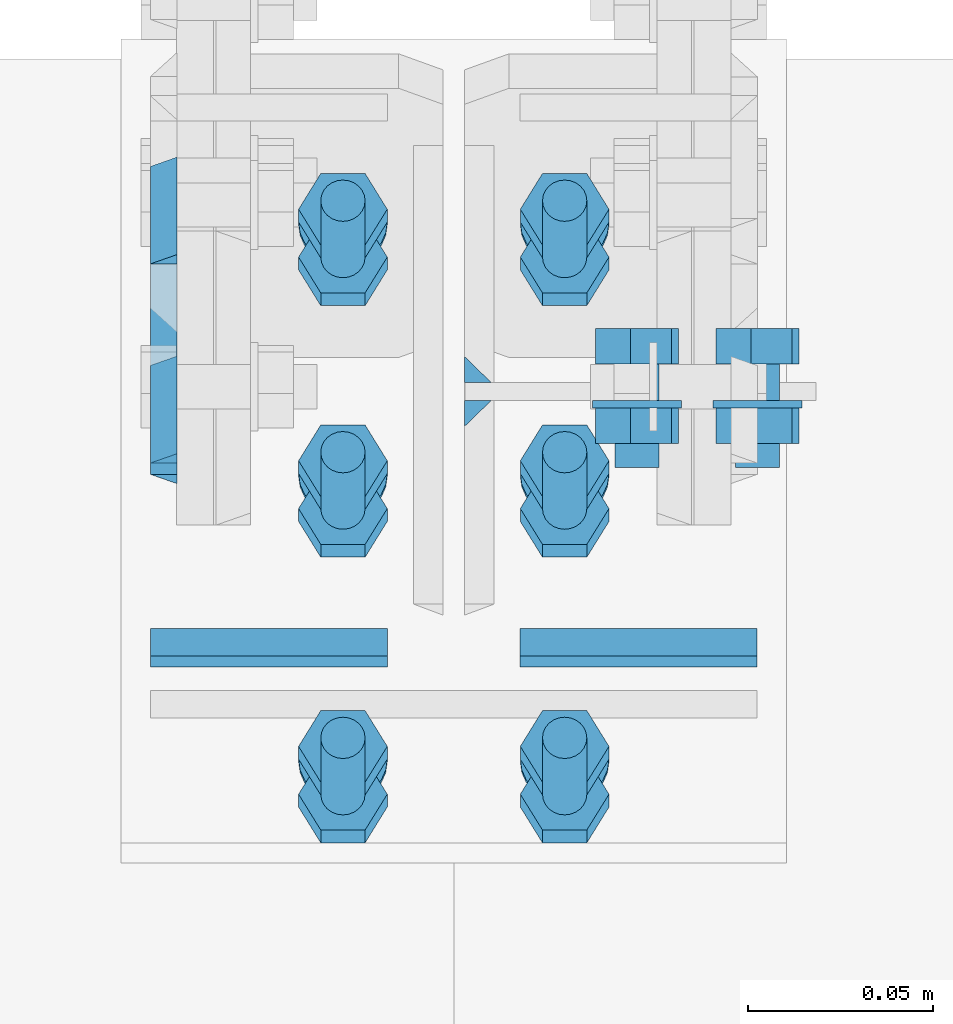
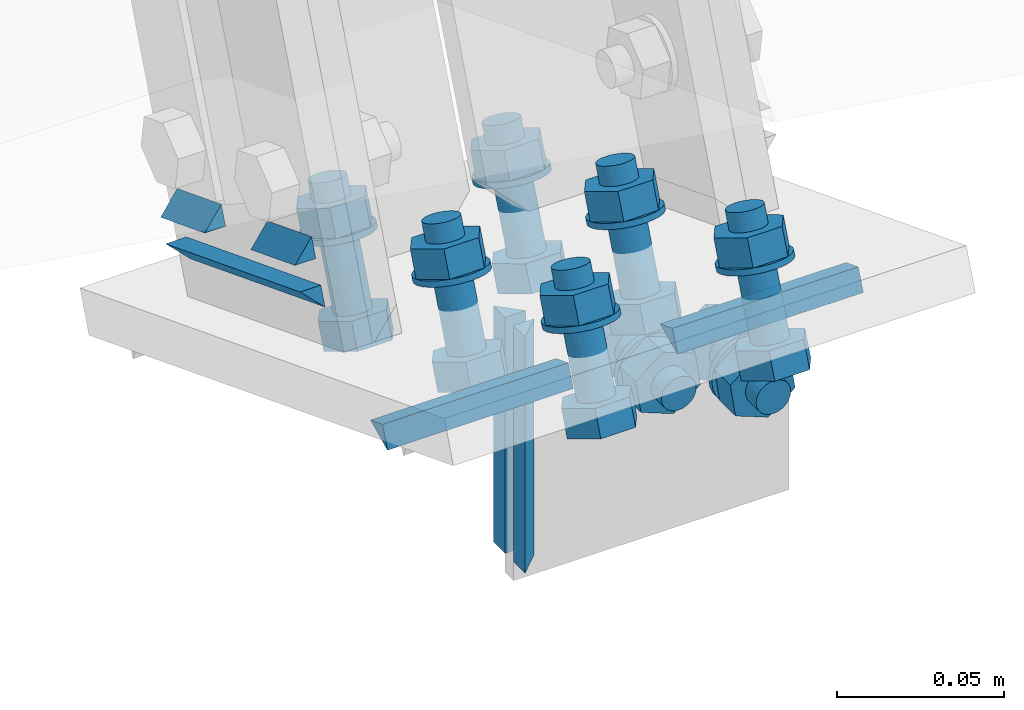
# One storey, part 64 of 72: 32 mechanical fasteners, 11 fasteners.
"""IFC4 building model written with IfcOpenShell, lengths in metres."""

from ifc_helpers import new_model, si_unit, frame, origin_with_axes, place, context, project, spatial, polyline, outline, extrude, type_object, element, save


model = new_model("IFC4")

# Units and contexts
model_context = context("Model", 3, precision=1e-05, world=origin_with_axes())
ifc_project = project(units=[si_unit("LENGTHUNIT", "METRE"), si_unit("AREAUNIT", "SQUARE_METRE"), si_unit("VOLUMEUNIT", "CUBIC_METRE"), si_unit("MASSUNIT", "GRAM", prefix="KILO"), si_unit("TIMEUNIT", "SECOND"), si_unit("PLANEANGLEUNIT", "RADIAN"), si_unit("SOLIDANGLEUNIT", "STERADIAN"), si_unit("THERMODYNAMICTEMPERATUREUNIT", "DEGREE_CELSIUS")], contexts=[model_context])

# Site, building, storey
placement_1 = place(None, origin_with_axes())
site = spatial("IfcSite", under=ifc_project, at=placement_1, Name="Italia", CompositionType="ELEMENT")
building = spatial("IfcBuilding", under=site, at=placement_1, Name="Uffici", CompositionType="ELEMENT")
storey = spatial("IfcBuildingStorey", under=building, at=placement_1, Name="Storey 0", CompositionType="ELEMENT", Elevation=0.0)

# Fasteners
fastener_type_1 = type_object("IfcFastenerType", Name="Collegamento 0209_0109", PredefinedType="WELD")
placement_2 = place(placement_1, origin_with_axes())
fastener_1_placement = place(placement_2, origin_with_axes())
element("IfcFastener", 1, at=fastener_1_placement, inside=storey, type_object=fastener_type_1, Name="Collegamento 0209_0109", context=model_context, shape_type="SweptSolid", body=[
    extrude(outline(polyline([(0.0, 0.0), (-0.0103469, -0.00475454), (-0.00739193, 0.00286627), (0.0, 0.0)])), frame((9.47295, 4.74586, 5.14777), z_axis=(1.0, 0.0, 0.0), x_axis=(0.0, 1.0, 0.0)), (0.0, 0.0, 1.0), 0.0641003),
])
fastener_type_2 = type_object("IfcFastenerType", Name="Collegamento 0209_0109", PredefinedType="WELD")
fastener_2_placement = place(placement_2, origin_with_axes())
element("IfcFastener", 2, at=fastener_2_placement, inside=storey, type_object=fastener_type_2, Name="Collegamento 0209_0109", context=model_context, shape_type="SweptSolid", body=[
    extrude(outline(polyline([(0.0, 0.0), (-0.0103469, -0.00475454), (-0.00739193, 0.00286627), (0.0, 0.0)])), frame((9.37295, 4.74586, 5.14777), z_axis=(1.0, 0.0, 0.0), x_axis=(0.0, 1.0, 0.0)), (0.0, 0.0, 1.0), 0.0641003),
])
fastener_type_3 = type_object("IfcFastenerType", Name="Collegamento 0209_0109", PredefinedType="WELD")
fastener_3_placement = place(placement_2, origin_with_axes())
element("IfcFastener", 3, at=fastener_3_placement, inside=storey, type_object=fastener_type_3, Name="Collegamento 0209_0109", context=model_context, shape_type="SweptSolid", body=[
    extrude(outline(polyline([(0.0, 0.0), (-0.0103469, -0.00475454), (-0.00739193, 0.00286627), (0.0, 0.0)])), frame((9.47295, 4.74586, 5.14777), z_axis=(1.0, 0.0, 0.0), x_axis=(0.0, 1.0, 0.0)), (0.0, 0.0, 1.0), 0.0641003),
])
fastener_type_4 = type_object("IfcFastenerType", Name="Collegamento 0209_0109", PredefinedType="WELD")
fastener_4_placement = place(placement_2, origin_with_axes())
element("IfcFastener", 4, at=fastener_4_placement, inside=storey, type_object=fastener_type_4, Name="Collegamento 0209_0109", context=model_context, shape_type="SweptSolid", body=[
    extrude(outline(polyline([(0.0, 0.0), (-0.0103469, -0.00475454), (-0.00739193, 0.00286627), (0.0, 0.0)])), frame((9.37295, 4.74586, 5.14777), z_axis=(1.0, 0.0, 0.0), x_axis=(0.0, 1.0, 0.0)), (0.0, 0.0, 1.0), 0.0641003),
])

# Mechanical fasteners
mechanical_fastener_type_1 = type_object("IfcMechanicalFastenerType", Name="Collegamento 0209_0109", PredefinedType="BOLT")
mechanical_fastener_1_placement = place(placement_2, origin_with_axes())
element("IfcMechanicalFastener", 5, at=mechanical_fastener_1_placement, inside=storey, type_object=mechanical_fastener_type_1, Name="Collegamento 0209_0109", NominalDiameter=0.0119997, context=model_context, shape_type="SweptSolid", body=[
    extrude(outline(polyline([(0.0, 0.0), (0.0120001, 0.0), (0.0179996, -0.0103927), (0.0120001, -0.0207849), (0.0, -0.0207849), (-0.00600052, -0.0103927), (0.0, 0.0)])), frame((9.479, 4.76862, 5.1389), z_axis=(0.0, -0.361504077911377, -0.932370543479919), x_axis=(1.0, 0.0, 0.0)), (0.0, 0.0, 1.0), 0.00959995),
])
mechanical_fastener_type_2 = type_object("IfcMechanicalFastenerType", Name="Collegamento 0209_0109", PredefinedType="BOLT")
mechanical_fastener_2_placement = place(placement_2, origin_with_axes())
element("IfcMechanicalFastener", 6, at=mechanical_fastener_2_placement, inside=storey, type_object=mechanical_fastener_type_2, Name="Collegamento 0209_0109", NominalDiameter=0.012, context=model_context, shape_type="SweptSolid", body=[
    extrude(outline(polyline([(0.0, 0.0), (-0.000204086, -0.00155282), (-0.000802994, -0.00299978), (-0.00175667, -0.0042429), (-0.00299931, -0.00519609), (-0.00444698, -0.00579524), (-0.00599957, -0.0059998), (-0.00755215, -0.00579524), (-0.00899982, -0.00519609), (-0.0102425, -0.0042429), (-0.0111961, -0.00299978), (-0.011795, -0.00155282), (-0.0119991, 0.0), (-0.011795, 0.00155306), (-0.0111961, 0.00300026), (-0.0102425, 0.0042429), (-0.00899982, 0.00519633), (-0.00755215, 0.00579596), (-0.00599957, 0.00600004), (-0.00444698, 0.00579596), (-0.00299931, 0.00519633), (-0.00175667, 0.0042429), (-0.000802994, 0.00300026), (-0.000204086, 0.00155306), (0.0, 0.0)])), frame((9.491, 4.79357, 5.17448), z_axis=(0.0, -0.361539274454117, -0.932356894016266), x_axis=(1.0, 0.0, 0.0)), (0.0, 0.0, 1.0), 0.0421998),
])
mechanical_fastener_type_3 = type_object("IfcMechanicalFastenerType", Name="Collegamento 0209_0109", PredefinedType="BOLT")
mechanical_fastener_3_placement = place(placement_2, origin_with_axes())
element("IfcMechanicalFastener", 7, at=mechanical_fastener_3_placement, inside=storey, type_object=mechanical_fastener_type_3, Name="Collegamento 0209_0109", NominalDiameter=0.0119997, context=model_context, shape_type="SweptSolid", body=[
    extrude(outline(polyline([(0.0, 0.0), (0.0120001, 0.0), (0.0179996, -0.0103922), (0.0120001, -0.0207846), (0.0, -0.0207846), (-0.00600052, -0.0103922), (0.0, 0.0)])), frame((9.479, 4.78156, 5.17227), z_axis=(0.0, -0.361547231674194, -0.932353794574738), x_axis=(1.0, 0.0, 0.0)), (0.0, 0.0, 1.0), 0.00960012),
])
mechanical_fastener_type_4 = type_object("IfcMechanicalFastenerType", Name="Collegamento 0209_0109", PredefinedType="BOLT")
mechanical_fastener_4_placement = place(placement_2, origin_with_axes())
element("IfcMechanicalFastener", 8, at=mechanical_fastener_4_placement, inside=storey, type_object=mechanical_fastener_type_4, Name="Collegamento 0209_0109", NominalDiameter=0.024, context=model_context, shape_type="SweptSolid", body=[
    extrude(outline(polyline([(0.0, 0.0), (-0.000409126, -0.00310636), (-0.00160789, -0.00600028), (-0.00351524, -0.00848508), (-0.00600052, -0.0103924), (-0.00889397, -0.011591), (-0.0120001, -0.0120001), (-0.0151062, -0.011591), (-0.0179996, -0.0103924), (-0.0204849, -0.00848508), (-0.0223923, -0.00600028), (-0.023591, -0.00310636), (-0.0240002, 0.0), (-0.023591, 0.00310588), (-0.0223923, 0.0059998), (-0.0204849, 0.00848508), (-0.0179996, 0.0103924), (-0.0151062, 0.0115907), (-0.0120001, 0.0120001), (-0.00889397, 0.0115907), (-0.00600052, 0.0103924), (-0.00351524, 0.00848508), (-0.00160789, 0.0059998), (-0.000409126, 0.00310588), (0.0, 0.0)])), frame((9.497, 4.78778, 5.15957), z_axis=(0.0, -0.361502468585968, -0.932371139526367), x_axis=(1.0, 0.0, 0.0)), (0.0, 0.0, 1.0), 0.00199967),
])
mechanical_fastener_type_5 = type_object("IfcMechanicalFastenerType", Name="Collegamento 0209_0109", PredefinedType="BOLT")
mechanical_fastener_5_placement = place(placement_2, origin_with_axes())
element("IfcMechanicalFastener", 9, at=mechanical_fastener_5_placement, inside=storey, type_object=mechanical_fastener_type_5, Name="Collegamento 0209_0109", NominalDiameter=0.0119997, context=model_context, shape_type="SweptSolid", body=[
    extrude(outline(polyline([(0.0, 0.0), (0.0120001, 0.0), (0.0180006, -0.0103927), (0.0120001, -0.0207849), (0.0, -0.0207849), (-0.00599957, -0.0103927), (0.0, 0.0)])), frame((9.419, 4.76862, 5.1389), z_axis=(0.0, -0.361504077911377, -0.932370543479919), x_axis=(1.0, 0.0, 0.0)), (0.0, 0.0, 1.0), 0.00959995),
])
mechanical_fastener_type_6 = type_object("IfcMechanicalFastenerType", Name="Collegamento 0209_0109", PredefinedType="BOLT")
mechanical_fastener_6_placement = place(placement_2, origin_with_axes())
element("IfcMechanicalFastener", 10, at=mechanical_fastener_6_placement, inside=storey, type_object=mechanical_fastener_type_6, Name="Collegamento 0209_0109", NominalDiameter=0.012, context=model_context, shape_type="SweptSolid", body=[
    extrude(outline(polyline([(0.0, 0.0), (-0.000204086, -0.00155282), (-0.000802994, -0.00299978), (-0.00175667, -0.0042429), (-0.00299931, -0.00519609), (-0.00444698, -0.00579524), (-0.00599957, -0.0059998), (-0.00755215, -0.00579524), (-0.00899982, -0.00519609), (-0.0102425, -0.0042429), (-0.0111961, -0.00299978), (-0.011795, -0.00155282), (-0.0119991, 0.0), (-0.011795, 0.00155306), (-0.0111961, 0.00300026), (-0.0102425, 0.0042429), (-0.00899982, 0.00519633), (-0.00755215, 0.00579596), (-0.00599957, 0.00600004), (-0.00444698, 0.00579596), (-0.00299931, 0.00519633), (-0.00175667, 0.0042429), (-0.000802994, 0.00300026), (-0.000204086, 0.00155306), (0.0, 0.0)])), frame((9.431, 4.79357, 5.17448), z_axis=(0.0, -0.361539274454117, -0.932356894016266), x_axis=(1.0, 0.0, 0.0)), (0.0, 0.0, 1.0), 0.0421998),
])
mechanical_fastener_type_7 = type_object("IfcMechanicalFastenerType", Name="Collegamento 0209_0109", PredefinedType="BOLT")
mechanical_fastener_7_placement = place(placement_2, origin_with_axes())
element("IfcMechanicalFastener", 11, at=mechanical_fastener_7_placement, inside=storey, type_object=mechanical_fastener_type_7, Name="Collegamento 0209_0109", NominalDiameter=0.0119997, context=model_context, shape_type="SweptSolid", body=[
    extrude(outline(polyline([(0.0, 0.0), (0.0120001, 0.0), (0.0180006, -0.0103924), (0.0120001, -0.0207846), (0.0, -0.0207846), (-0.00599957, -0.0103924), (0.0, 0.0)])), frame((9.419, 4.78156, 5.17227), z_axis=(0.0, -0.361563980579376, -0.932347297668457), x_axis=(1.0, 0.0, 0.0)), (0.0, 0.0, 1.0), 0.00959968),
])
mechanical_fastener_type_8 = type_object("IfcMechanicalFastenerType", Name="Collegamento 0209_0109", PredefinedType="BOLT")
mechanical_fastener_8_placement = place(placement_2, origin_with_axes())
element("IfcMechanicalFastener", 12, at=mechanical_fastener_8_placement, inside=storey, type_object=mechanical_fastener_type_8, Name="Collegamento 0209_0109", NominalDiameter=0.024, context=model_context, shape_type="SweptSolid", body=[
    extrude(outline(polyline([(0.0, 0.0), (-0.000409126, -0.00310636), (-0.00160789, -0.00600028), (-0.00351524, -0.00848508), (-0.00600052, -0.0103924), (-0.00889397, -0.011591), (-0.0120001, -0.0120001), (-0.0151062, -0.011591), (-0.0179996, -0.0103924), (-0.0204849, -0.00848508), (-0.0223923, -0.00600028), (-0.023591, -0.00310636), (-0.0240002, 0.0), (-0.023591, 0.00310588), (-0.0223923, 0.0059998), (-0.0204849, 0.00848508), (-0.0179996, 0.0103924), (-0.0151062, 0.0115907), (-0.0120001, 0.0120001), (-0.00889397, 0.0115907), (-0.00600052, 0.0103924), (-0.00351524, 0.00848508), (-0.00160789, 0.0059998), (-0.000409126, 0.00310588), (0.0, 0.0)])), frame((9.437, 4.78778, 5.15957), z_axis=(0.0, -0.361502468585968, -0.932371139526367), x_axis=(1.0, 0.0, 0.0)), (0.0, 0.0, 1.0), 0.00199967),
])
mechanical_fastener_type_9 = type_object("IfcMechanicalFastenerType", Name="Collegamento 0209_0109", PredefinedType="BOLT")
mechanical_fastener_9_placement = place(placement_2, origin_with_axes())
element("IfcMechanicalFastener", 13, at=mechanical_fastener_9_placement, inside=storey, type_object=mechanical_fastener_type_9, Name="Collegamento 0209_0109", NominalDiameter=0.0119997, context=model_context, shape_type="SweptSolid", body=[
    extrude(outline(polyline([(0.0, 0.0), (0.0120001, -2.38419e-07), (0.0179996, -0.0103924), (0.0120001, -0.0207853), (0.0, -0.0207853), (-0.00600052, -0.0103924), (0.0, 0.0)])), frame((9.479, 4.83668, 5.1125), z_axis=(0.0, -0.361504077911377, -0.932370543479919), x_axis=(1.0, 0.0, 0.0)), (0.0, 0.0, 1.0), 0.00959995),
])
mechanical_fastener_type_10 = type_object("IfcMechanicalFastenerType", Name="Collegamento 0209_0109", PredefinedType="BOLT")
mechanical_fastener_10_placement = place(placement_2, origin_with_axes())
element("IfcMechanicalFastener", 14, at=mechanical_fastener_10_placement, inside=storey, type_object=mechanical_fastener_type_10, Name="Collegamento 0209_0109", NominalDiameter=0.012, context=model_context, shape_type="SweptSolid", body=[
    extrude(outline(polyline([(0.0, 0.0), (-0.000204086, -0.0015521), (-0.000802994, -0.00299978), (-0.00175667, -0.0042429), (-0.00299931, -0.00519609), (-0.00444698, -0.005795), (-0.00599957, -0.0059998), (-0.00755215, -0.005795), (-0.00899982, -0.00519609), (-0.0102425, -0.0042429), (-0.0111961, -0.00299978), (-0.011795, -0.0015521), (-0.0119991, 0.0), (-0.011795, 0.00155306), (-0.0111961, 0.00299978), (-0.0102425, 0.0042429), (-0.00899982, 0.00519609), (-0.00755215, 0.00579596), (-0.00599957, 0.00600052), (-0.00444698, 0.00579596), (-0.00299931, 0.00519609), (-0.00175667, 0.0042429), (-0.000802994, 0.00299978), (-0.000204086, 0.00155306), (0.0, 0.0)])), frame((9.491, 4.86163, 5.14809), z_axis=(0.0, -0.361515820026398, -0.932365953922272), x_axis=(1.0, 0.0, 0.0)), (0.0, 0.0, 1.0), 0.0421999),
])
mechanical_fastener_type_11 = type_object("IfcMechanicalFastenerType", Name="Collegamento 0209_0109", PredefinedType="BOLT")
mechanical_fastener_11_placement = place(placement_2, origin_with_axes())
element("IfcMechanicalFastener", 15, at=mechanical_fastener_11_placement, inside=storey, type_object=mechanical_fastener_type_11, Name="Collegamento 0209_0109", NominalDiameter=0.0119997, context=model_context, shape_type="SweptSolid", body=[
    extrude(outline(polyline([(0.0, 0.0), (0.0120001, 0.0), (0.0179996, -0.0103924), (0.0120001, -0.0207846), (0.0, -0.0207846), (-0.00600052, -0.0103924), (0.0, 0.0)])), frame((9.479, 4.84962, 5.14588), z_axis=(0.0, -0.361504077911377, -0.932370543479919), x_axis=(1.0, 0.0, 0.0)), (0.0, 0.0, 1.0), 0.00959995),
])
mechanical_fastener_type_12 = type_object("IfcMechanicalFastenerType", Name="Collegamento 0209_0109", PredefinedType="BOLT")
mechanical_fastener_12_placement = place(placement_2, origin_with_axes())
element("IfcMechanicalFastener", 16, at=mechanical_fastener_12_placement, inside=storey, type_object=mechanical_fastener_type_12, Name="Collegamento 0209_0109", NominalDiameter=0.024, context=model_context, shape_type="SweptSolid", body=[
    extrude(outline(polyline([(0.0, 0.0), (-0.000409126, -0.00310564), (-0.00160789, -0.00600004), (-0.00351524, -0.00848556), (-0.00600052, -0.0103927), (-0.00889397, -0.011591), (-0.0120001, -0.0119996), (-0.0151062, -0.011591), (-0.0179996, -0.0103927), (-0.0204849, -0.00848556), (-0.0223923, -0.00600004), (-0.023591, -0.00310564), (-0.0240002, 0.0), (-0.023591, 0.00310588), (-0.0223923, 0.00600052), (-0.0204849, 0.00848532), (-0.0179996, 0.0103924), (-0.0151062, 0.0115914), (-0.0120001, 0.0119998), (-0.00889397, 0.0115914), (-0.00600052, 0.0103924), (-0.00351524, 0.00848532), (-0.00160789, 0.00600052), (-0.000409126, 0.00310588), (0.0, 0.0)])), frame((9.497, 4.85584, 5.13317), z_axis=(0.0, -0.361341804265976, -0.932433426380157), x_axis=(1.0, 0.0, 0.0)), (0.0, 0.0, 1.0), 0.00200056),
])
mechanical_fastener_type_13 = type_object("IfcMechanicalFastenerType", Name="Collegamento 0209_0109", PredefinedType="BOLT")
mechanical_fastener_13_placement = place(placement_2, origin_with_axes())
element("IfcMechanicalFastener", 17, at=mechanical_fastener_13_placement, inside=storey, type_object=mechanical_fastener_type_13, Name="Collegamento 0209_0109", NominalDiameter=0.0119999, context=model_context, shape_type="SweptSolid", body=[
    extrude(outline(polyline([(0.0, 0.0), (0.0120001, 0.0), (0.0180006, -0.0103924), (0.0120001, -0.0207853), (0.0, -0.0207853), (-0.00599957, -0.0103924), (0.0, 0.0)])), frame((9.419, 4.83668, 5.1125), z_axis=(0.0, -0.361504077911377, -0.932370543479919), x_axis=(1.0, 0.0, 0.0)), (0.0, 0.0, 1.0), 0.00959995),
])
mechanical_fastener_type_14 = type_object("IfcMechanicalFastenerType", Name="Collegamento 0209_0109", PredefinedType="BOLT")
mechanical_fastener_14_placement = place(placement_2, origin_with_axes())
element("IfcMechanicalFastener", 18, at=mechanical_fastener_14_placement, inside=storey, type_object=mechanical_fastener_type_14, Name="Collegamento 0209_0109", NominalDiameter=0.012, context=model_context, shape_type="SweptSolid", body=[
    extrude(outline(polyline([(0.0, 0.0), (-0.000204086, -0.0015521), (-0.000802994, -0.00299978), (-0.00175667, -0.0042429), (-0.00299931, -0.00519609), (-0.00444698, -0.005795), (-0.00599957, -0.0059998), (-0.00755215, -0.005795), (-0.00899982, -0.00519609), (-0.0102425, -0.0042429), (-0.0111961, -0.00299978), (-0.011795, -0.0015521), (-0.0119991, 0.0), (-0.011795, 0.00155306), (-0.0111961, 0.00299978), (-0.0102425, 0.0042429), (-0.00899982, 0.00519609), (-0.00755215, 0.00579596), (-0.00599957, 0.00600052), (-0.00444698, 0.00579596), (-0.00299931, 0.00519609), (-0.00175667, 0.0042429), (-0.000802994, 0.00299978), (-0.000204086, 0.00155306), (0.0, 0.0)])), frame((9.431, 4.86163, 5.14809), z_axis=(0.0, -0.361515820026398, -0.932365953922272), x_axis=(1.0, 0.0, 0.0)), (0.0, 0.0, 1.0), 0.0421999),
])
mechanical_fastener_type_15 = type_object("IfcMechanicalFastenerType", Name="Collegamento 0209_0109", PredefinedType="BOLT")
mechanical_fastener_15_placement = place(placement_2, origin_with_axes())
element("IfcMechanicalFastener", 19, at=mechanical_fastener_15_placement, inside=storey, type_object=mechanical_fastener_type_15, Name="Collegamento 0209_0109", NominalDiameter=0.0119997, context=model_context, shape_type="SweptSolid", body=[
    extrude(outline(polyline([(0.0, 0.0), (0.0120001, 0.0), (0.0180006, -0.0103924), (0.0120001, -0.0207849), (0.0, -0.0207849), (-0.00599957, -0.0103924), (0.0, 0.0)])), frame((9.419, 4.84962, 5.14588), z_axis=(0.0, -0.361520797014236, -0.932364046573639), x_axis=(1.0, 0.0, 0.0)), (0.0, 0.0, 1.0), 0.0095995),
])
mechanical_fastener_type_16 = type_object("IfcMechanicalFastenerType", Name="Collegamento 0209_0109", PredefinedType="BOLT")
mechanical_fastener_16_placement = place(placement_2, origin_with_axes())
element("IfcMechanicalFastener", 20, at=mechanical_fastener_16_placement, inside=storey, type_object=mechanical_fastener_type_16, Name="Collegamento 0209_0109", NominalDiameter=0.024, context=model_context, shape_type="SweptSolid", body=[
    extrude(outline(polyline([(0.0, 0.0), (-0.000409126, -0.00310564), (-0.00160789, -0.00600004), (-0.00351524, -0.00848556), (-0.00600052, -0.0103927), (-0.00889397, -0.011591), (-0.0120001, -0.0119996), (-0.0151062, -0.011591), (-0.0179996, -0.0103927), (-0.0204849, -0.00848556), (-0.0223923, -0.00600004), (-0.023591, -0.00310564), (-0.0240002, 0.0), (-0.023591, 0.00310588), (-0.0223923, 0.00600052), (-0.0204849, 0.00848532), (-0.0179996, 0.0103924), (-0.0151062, 0.0115914), (-0.0120001, 0.0119998), (-0.00889397, 0.0115914), (-0.00600052, 0.0103924), (-0.00351524, 0.00848532), (-0.00160789, 0.00600052), (-0.000409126, 0.00310588), (0.0, 0.0)])), frame((9.437, 4.85584, 5.13317), z_axis=(0.0, -0.361341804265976, -0.932433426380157), x_axis=(1.0, 0.0, 0.0)), (0.0, 0.0, 1.0), 0.00200056),
])
mechanical_fastener_type_17 = type_object("IfcMechanicalFastenerType", Name="Collegamento 0209_0109", PredefinedType="BOLT")
mechanical_fastener_17_placement = place(placement_2, origin_with_axes())
element("IfcMechanicalFastener", 21, at=mechanical_fastener_17_placement, inside=storey, type_object=mechanical_fastener_type_17, Name="Collegamento 0209_0109", NominalDiameter=0.0119997, context=model_context, shape_type="SweptSolid", body=[
    extrude(outline(polyline([(0.0, 0.0), (0.0120001, 0.0), (0.0179996, -0.0103922), (0.0120001, -0.0207846), (0.0, -0.0207846), (-0.00600052, -0.0103922), (0.0, 0.0)])), frame((9.479, 4.69133, 5.16887), z_axis=(0.0, -0.361547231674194, -0.932353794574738), x_axis=(1.0, 0.0, 0.0)), (0.0, 0.0, 1.0), 0.00960012),
])
mechanical_fastener_type_18 = type_object("IfcMechanicalFastenerType", Name="Collegamento 0209_0109", PredefinedType="BOLT")
mechanical_fastener_18_placement = place(placement_2, origin_with_axes())
element("IfcMechanicalFastener", 22, at=mechanical_fastener_18_placement, inside=storey, type_object=mechanical_fastener_type_18, Name="Collegamento 0209_0109", NominalDiameter=0.012, context=model_context, shape_type="SweptSolid", body=[
    extrude(outline(polyline([(0.0, 0.0), (-0.000204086, -0.0015521), (-0.000802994, -0.00299978), (-0.00175667, -0.0042429), (-0.00299931, -0.00519609), (-0.00444698, -0.005795), (-0.00599957, -0.00599957), (-0.00755215, -0.005795), (-0.00899982, -0.00519609), (-0.0102425, -0.0042429), (-0.0111961, -0.00299978), (-0.011795, -0.0015521), (-0.0119991, 0.0), (-0.011795, 0.00155306), (-0.0111961, 0.00300002), (-0.0102425, 0.0042429), (-0.00899982, 0.00519609), (-0.00755215, 0.00579596), (-0.00599957, 0.00600052), (-0.00444698, 0.00579596), (-0.00299931, 0.00519609), (-0.00175667, 0.0042429), (-0.000802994, 0.00300002), (-0.000204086, 0.00155306), (0.0, 0.0)])), frame((9.491, 4.71627, 5.20445), z_axis=(0.0, -0.361515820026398, -0.932365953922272), x_axis=(1.0, 0.0, 0.0)), (0.0, 0.0, 1.0), 0.0421999),
])
mechanical_fastener_type_19 = type_object("IfcMechanicalFastenerType", Name="Collegamento 0209_0109", PredefinedType="BOLT")
mechanical_fastener_19_placement = place(placement_2, origin_with_axes())
element("IfcMechanicalFastener", 23, at=mechanical_fastener_19_placement, inside=storey, type_object=mechanical_fastener_type_19, Name="Collegamento 0209_0109", NominalDiameter=0.0119997, context=model_context, shape_type="SweptSolid", body=[
    extrude(outline(polyline([(0.0, 0.0), (0.0120001, 0.0), (0.0179996, -0.0103927), (0.0120001, -0.0207849), (0.0, -0.0207849), (-0.00600052, -0.0103927), (0.0, 0.0)])), frame((9.479, 4.70427, 5.20224), z_axis=(0.0, -0.361520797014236, -0.932364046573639), x_axis=(1.0, 0.0, 0.0)), (0.0, 0.0, 1.0), 0.0095995),
])
mechanical_fastener_type_20 = type_object("IfcMechanicalFastenerType", Name="Collegamento 0209_0109", PredefinedType="BOLT")
mechanical_fastener_20_placement = place(placement_2, origin_with_axes())
element("IfcMechanicalFastener", 24, at=mechanical_fastener_20_placement, inside=storey, type_object=mechanical_fastener_type_20, Name="Collegamento 0209_0109", NominalDiameter=0.024, context=model_context, shape_type="SweptSolid", body=[
    extrude(outline(polyline([(0.0, 0.0), (-0.000409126, -0.00310588), (-0.00160789, -0.00600004), (-0.00351524, -0.00848556), (-0.00600052, -0.0103924), (-0.00889397, -0.0115914), (-0.0120001, -0.0119998), (-0.0151062, -0.0115914), (-0.0179996, -0.0103924), (-0.0204849, -0.00848556), (-0.0223923, -0.00600004), (-0.023591, -0.00310588), (-0.0240002, 0.0), (-0.023591, 0.0031054), (-0.0223923, 0.00600004), (-0.0204849, 0.00848556), (-0.0179996, 0.0103924), (-0.0151062, 0.011591), (-0.0120001, 0.0119994), (-0.00889397, 0.011591), (-0.00600052, 0.0103924), (-0.00351524, 0.00848556), (-0.00160789, 0.00600004), (-0.000409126, 0.0031054), (0.0, 0.0)])), frame((9.497, 4.71049, 5.18954), z_axis=(0.0, -0.361341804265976, -0.932433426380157), x_axis=(1.0, 0.0, 0.0)), (0.0, 0.0, 1.0), 0.00200056),
])
mechanical_fastener_type_21 = type_object("IfcMechanicalFastenerType", Name="Collegamento 0209_0109", PredefinedType="BOLT")
mechanical_fastener_21_placement = place(placement_2, origin_with_axes())
element("IfcMechanicalFastener", 25, at=mechanical_fastener_21_placement, inside=storey, type_object=mechanical_fastener_type_21, Name="Collegamento 0209_0109", NominalDiameter=0.0119997, context=model_context, shape_type="SweptSolid", body=[
    extrude(outline(polyline([(0.0, 0.0), (0.0120001, 0.0), (0.0180006, -0.0103922), (0.0120001, -0.0207846), (0.0, -0.0207846), (-0.00599957, -0.0103922), (0.0, 0.0)])), frame((9.419, 4.69133, 5.16887), z_axis=(0.0, -0.361547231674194, -0.932353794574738), x_axis=(1.0, 0.0, 0.0)), (0.0, 0.0, 1.0), 0.00960012),
])
mechanical_fastener_type_22 = type_object("IfcMechanicalFastenerType", Name="Collegamento 0209_0109", PredefinedType="BOLT")
mechanical_fastener_22_placement = place(placement_2, origin_with_axes())
element("IfcMechanicalFastener", 26, at=mechanical_fastener_22_placement, inside=storey, type_object=mechanical_fastener_type_22, Name="Collegamento 0209_0109", NominalDiameter=0.012, context=model_context, shape_type="SweptSolid", body=[
    extrude(outline(polyline([(0.0, 0.0), (-0.000204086, -0.0015521), (-0.000802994, -0.00299978), (-0.00175667, -0.0042429), (-0.00299931, -0.00519609), (-0.00444698, -0.005795), (-0.00599957, -0.00599957), (-0.00755215, -0.005795), (-0.00899982, -0.00519609), (-0.0102425, -0.0042429), (-0.0111961, -0.00299978), (-0.011795, -0.0015521), (-0.0119991, 0.0), (-0.011795, 0.00155306), (-0.0111961, 0.00300002), (-0.0102425, 0.0042429), (-0.00899982, 0.00519609), (-0.00755215, 0.00579596), (-0.00599957, 0.00600052), (-0.00444698, 0.00579596), (-0.00299931, 0.00519609), (-0.00175667, 0.0042429), (-0.000802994, 0.00300002), (-0.000204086, 0.00155306), (0.0, 0.0)])), frame((9.431, 4.71627, 5.20445), z_axis=(0.0, -0.361515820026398, -0.932365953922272), x_axis=(1.0, 0.0, 0.0)), (0.0, 0.0, 1.0), 0.0421999),
])
mechanical_fastener_type_23 = type_object("IfcMechanicalFastenerType", Name="Collegamento 0209_0109", PredefinedType="BOLT")
mechanical_fastener_23_placement = place(placement_2, origin_with_axes())
element("IfcMechanicalFastener", 27, at=mechanical_fastener_23_placement, inside=storey, type_object=mechanical_fastener_type_23, Name="Collegamento 0209_0109", NominalDiameter=0.0119999, context=model_context, shape_type="SweptSolid", body=[
    extrude(outline(polyline([(0.0, 0.0), (0.0120001, -2.38419e-07), (0.0180006, -0.0103924), (0.0120001, -0.0207846), (0.0, -0.0207846), (-0.00599957, -0.0103924), (0.0, 0.0)])), frame((9.419, 4.70427, 5.20224), z_axis=(0.0, -0.361504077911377, -0.932370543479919), x_axis=(1.0, 0.0, 0.0)), (0.0, 0.0, 1.0), 0.00959995),
])
mechanical_fastener_type_24 = type_object("IfcMechanicalFastenerType", Name="Collegamento 0209_0109", PredefinedType="BOLT")
mechanical_fastener_24_placement = place(placement_2, origin_with_axes())
element("IfcMechanicalFastener", 28, at=mechanical_fastener_24_placement, inside=storey, type_object=mechanical_fastener_type_24, Name="Collegamento 0209_0109", NominalDiameter=0.024, context=model_context, shape_type="SweptSolid", body=[
    extrude(outline(polyline([(0.0, 0.0), (-0.000409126, -0.00310588), (-0.00160789, -0.00600004), (-0.00351524, -0.00848556), (-0.00600052, -0.0103924), (-0.00889397, -0.0115914), (-0.0120001, -0.0119998), (-0.0151062, -0.0115914), (-0.0179996, -0.0103924), (-0.0204849, -0.00848556), (-0.0223923, -0.00600004), (-0.023591, -0.00310588), (-0.0240002, 0.0), (-0.023591, 0.0031054), (-0.0223923, 0.00600004), (-0.0204849, 0.00848556), (-0.0179996, 0.0103924), (-0.0151062, 0.011591), (-0.0120001, 0.0119994), (-0.00889397, 0.011591), (-0.00600052, 0.0103924), (-0.00351524, 0.00848556), (-0.00160789, 0.00600004), (-0.000409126, 0.0031054), (0.0, 0.0)])), frame((9.437, 4.71049, 5.18954), z_axis=(0.0, -0.361341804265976, -0.932433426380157), x_axis=(1.0, 0.0, 0.0)), (0.0, 0.0, 1.0), 0.00200056),
])
mechanical_fastener_type_25 = type_object("IfcMechanicalFastenerType", Name="Collegamento 0209_0110", PredefinedType="BOLT")
mechanical_fastener_25_placement = place(placement_2, origin_with_axes())
element("IfcMechanicalFastener", 29, at=mechanical_fastener_25_placement, inside=storey, type_object=mechanical_fastener_type_25, Name="Collegamento 0209_0110", NominalDiameter=0.0119999, context=model_context, shape_type="SweptSolid", body=[
    extrude(outline(polyline([(0.0, 0.0), (0.0111799, 0.0043602), (0.0129938, 0.0162225), (0.00362778, 0.0237241), (-0.00755215, 0.0193639), (-0.00936604, 0.0075016), (0.0, 0.0)])), frame((9.5064, 4.8175, 5.07298), z_axis=(0.0, 1.0, 0.0), x_axis=(-1.0, 0.0, 0.0)), (0.0, 0.0, 1.0), 0.00960016),
])
mechanical_fastener_type_26 = type_object("IfcMechanicalFastenerType", Name="Collegamento 0209_0110", PredefinedType="BOLT")
mechanical_fastener_26_placement = place(placement_2, origin_with_axes())
element("IfcMechanicalFastener", 30, at=mechanical_fastener_26_placement, inside=storey, type_object=mechanical_fastener_type_26, Name="Collegamento 0209_0110", NominalDiameter=0.012, context=model_context, shape_type="SweptSolid", body=[
    extrude(outline(polyline([(0.0, 0.0), (-0.000204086, -0.00155306), (-0.000802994, -0.00299978), (-0.00175667, -0.00424242), (-0.00299931, -0.00519609), (-0.00444698, -0.00579548), (-0.00599957, -0.00600004), (-0.00755215, -0.00579548), (-0.00899982, -0.00519609), (-0.0102425, -0.00424242), (-0.0111961, -0.00299978), (-0.011795, -0.00155306), (-0.0119991, 0.0), (-0.011795, 0.00155306), (-0.0111961, 0.00299978), (-0.0102425, 0.00424242), (-0.00899982, 0.00519609), (-0.00755215, 0.00579548), (-0.00599957, 0.00600004), (-0.00444698, 0.00579548), (-0.00299931, 0.00519609), (-0.00175667, 0.00424242), (-0.000802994, 0.00299978), (-0.000204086, 0.00155306), (0.0, 0.0)])), frame((9.49858, 4.7895, 5.08484), z_axis=(0.0, 1.0, 0.0), x_axis=(-1.0, 0.0, 0.0)), (0.0, 0.0, 1.0), 0.0279999),
])
mechanical_fastener_type_27 = type_object("IfcMechanicalFastenerType", Name="Collegamento 0209_0110", PredefinedType="BOLT")
mechanical_fastener_27_placement = place(placement_2, origin_with_axes())
element("IfcMechanicalFastener", 31, at=mechanical_fastener_27_placement, inside=storey, type_object=mechanical_fastener_type_27, Name="Collegamento 0209_0110", NominalDiameter=0.0119999, context=model_context, shape_type="SweptSolid", body=[
    extrude(outline(polyline([(0.0, 0.0), (0.0111799, 0.0043602), (0.0129938, 0.0162225), (0.00362778, 0.0237241), (-0.00755215, 0.0193639), (-0.00936604, 0.0075016), (0.0, 0.0)])), frame((9.5064, 4.7959, 5.07298), z_axis=(0.0, 1.0, 0.0), x_axis=(-1.0, 0.0, 0.0)), (0.0, 0.0, 1.0), 0.00960016),
])
mechanical_fastener_type_28 = type_object("IfcMechanicalFastenerType", Name="Collegamento 0209_0110", PredefinedType="BOLT")
mechanical_fastener_28_placement = place(placement_2, origin_with_axes())
element("IfcMechanicalFastener", 32, at=mechanical_fastener_28_placement, inside=storey, type_object=mechanical_fastener_type_28, Name="Collegamento 0209_0110", NominalDiameter=0.024, context=model_context, shape_type="SweptSolid", body=[
    extrude(outline(polyline([(0.0, 0.0), (-0.000409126, -0.00310564), (-0.00160789, -0.00600004), (-0.00351524, -0.00848532), (-0.00600052, -0.0103922), (-0.00889397, -0.011591), (-0.0120001, -0.0120001), (-0.0151062, -0.011591), (-0.0179996, -0.0103922), (-0.0204849, -0.00848532), (-0.0223923, -0.00600004), (-0.023591, -0.00310564), (-0.0240002, 0.0), (-0.023591, 0.00310564), (-0.0223923, 0.00600004), (-0.0204849, 0.00848532), (-0.0179996, 0.0103922), (-0.0151062, 0.011591), (-0.0120001, 0.0120001), (-0.00889397, 0.011591), (-0.00600052, 0.0103922), (-0.00351524, 0.00848532), (-0.00160789, 0.00600004), (-0.000409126, 0.00310564), (0.0, 0.0)])), frame((9.49258, 4.8055, 5.08484), z_axis=(0.0, 1.0, 0.0), x_axis=(-1.0, 0.0, 0.0)), (0.0, 0.0, 1.0), 0.00199986),
])
mechanical_fastener_type_29 = type_object("IfcMechanicalFastenerType", Name="Collegamento 0209_0110", PredefinedType="BOLT")
mechanical_fastener_29_placement = place(placement_2, origin_with_axes())
element("IfcMechanicalFastener", 33, at=mechanical_fastener_29_placement, inside=storey, type_object=mechanical_fastener_type_29, Name="Collegamento 0209_0110", NominalDiameter=0.0119997, context=model_context, shape_type="SweptSolid", body=[
    extrude(outline(polyline([(0.0, 0.0), (0.0111799, 0.0043602), (0.0129938, 0.0162225), (0.00362778, 0.0237246), (-0.00755215, 0.0193639), (-0.00936604, 0.00750208), (0.0, 0.0)])), frame((9.53901, 4.8175, 5.06026), z_axis=(0.0, 1.0, 0.0), x_axis=(-1.0, 0.0, 0.0)), (0.0, 0.0, 1.0), 0.00960016),
])
mechanical_fastener_type_30 = type_object("IfcMechanicalFastenerType", Name="Collegamento 0209_0110", PredefinedType="BOLT")
mechanical_fastener_30_placement = place(placement_2, origin_with_axes())
element("IfcMechanicalFastener", 34, at=mechanical_fastener_30_placement, inside=storey, type_object=mechanical_fastener_type_30, Name="Collegamento 0209_0110", NominalDiameter=0.012, context=model_context, shape_type="SweptSolid", body=[
    extrude(outline(polyline([(0.0, 0.0), (-0.000204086, -0.00155306), (-0.000802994, -0.00299978), (-0.00175667, -0.00424242), (-0.00299931, -0.00519609), (-0.00444698, -0.00579548), (-0.00599957, -0.00600004), (-0.00755215, -0.00579548), (-0.00899982, -0.00519609), (-0.0102425, -0.00424242), (-0.0111961, -0.00299978), (-0.011795, -0.00155306), (-0.0119991, 0.0), (-0.011795, 0.00155306), (-0.0111961, 0.00299978), (-0.0102425, 0.00424242), (-0.00899982, 0.00519609), (-0.00755215, 0.00579548), (-0.00599957, 0.00600004), (-0.00444698, 0.00579548), (-0.00299931, 0.00519609), (-0.00175667, 0.00424242), (-0.000802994, 0.00299978), (-0.000204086, 0.00155306), (0.0, 0.0)])), frame((9.53119, 4.7895, 5.07212), z_axis=(0.0, 1.0, 0.0), x_axis=(-1.0, 0.0, 0.0)), (0.0, 0.0, 1.0), 0.0279999),
])
mechanical_fastener_type_31 = type_object("IfcMechanicalFastenerType", Name="Collegamento 0209_0110", PredefinedType="BOLT")
mechanical_fastener_31_placement = place(placement_2, origin_with_axes())
element("IfcMechanicalFastener", 35, at=mechanical_fastener_31_placement, inside=storey, type_object=mechanical_fastener_type_31, Name="Collegamento 0209_0110", NominalDiameter=0.0119997, context=model_context, shape_type="SweptSolid", body=[
    extrude(outline(polyline([(0.0, 0.0), (0.0111799, 0.0043602), (0.0129938, 0.0162225), (0.00362778, 0.0237246), (-0.00755215, 0.0193639), (-0.00936604, 0.00750208), (0.0, 0.0)])), frame((9.53901, 4.7959, 5.06026), z_axis=(0.0, 1.0, 0.0), x_axis=(-1.0, 0.0, 0.0)), (0.0, 0.0, 1.0), 0.00960016),
])
mechanical_fastener_type_32 = type_object("IfcMechanicalFastenerType", Name="Collegamento 0209_0110", PredefinedType="BOLT")
mechanical_fastener_32_placement = place(placement_2, origin_with_axes())
element("IfcMechanicalFastener", 36, at=mechanical_fastener_32_placement, inside=storey, type_object=mechanical_fastener_type_32, Name="Collegamento 0209_0110", NominalDiameter=0.024, context=model_context, shape_type="SweptSolid", body=[
    extrude(outline(polyline([(0.0, 0.0), (-0.000409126, -0.00310564), (-0.00160789, -0.00600004), (-0.00351524, -0.00848532), (-0.00600052, -0.0103922), (-0.00889397, -0.011591), (-0.0120001, -0.0120001), (-0.0151062, -0.011591), (-0.0179996, -0.0103922), (-0.0204849, -0.00848532), (-0.0223923, -0.00600004), (-0.023591, -0.00310564), (-0.0240002, 0.0), (-0.023591, 0.00310564), (-0.0223923, 0.00600004), (-0.0204849, 0.00848532), (-0.0179996, 0.0103922), (-0.0151062, 0.011591), (-0.0120001, 0.0120001), (-0.00889397, 0.011591), (-0.00600052, 0.0103922), (-0.00351524, 0.00848532), (-0.00160789, 0.00600004), (-0.000409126, 0.00310564), (0.0, 0.0)])), frame((9.52519, 4.8055, 5.07212), z_axis=(0.0, 1.0, 0.0), x_axis=(-1.0, 0.0, 0.0)), (0.0, 0.0, 1.0), 0.00199986),
])

# Fasteners
fastener_type_5 = type_object("IfcFastenerType", Name="Collegamento 0209_0110", PredefinedType="WELD")
fastener_5_placement = place(placement_2, origin_with_axes())
element("IfcFastener", 37, at=fastener_5_placement, inside=storey, type_object=fastener_type_5, Name="Collegamento 0209_0110", context=model_context, shape_type="SweptSolid", body=[
    extrude(outline(polyline([(0.0, 0.0), (0.00695801, 0.00717258), (0.00695801, 0.0), (0.0, 0.0)])), frame((9.45795, 4.80059, 5.11506), z_axis=(0.0, 0.0, -1.0), x_axis=(0.0, 1.0, 0.0)), (0.0, 0.0, 1.0), 0.0860991),
])
fastener_type_6 = type_object("IfcFastenerType", Name="Collegamento 0209_0110", PredefinedType="WELD")
fastener_6_placement = place(placement_2, origin_with_axes())
element("IfcFastener", 38, at=fastener_6_placement, inside=storey, type_object=fastener_type_6, Name="Collegamento 0209_0110", context=model_context, shape_type="SweptSolid", body=[
    extrude(outline(polyline([(0.0, 0.0), (-0.00695801, -0.00717258), (-0.00695801, 0.0), (0.0, 0.0)])), frame((9.45795, 4.81941, 5.02896), z_axis=(0.0, 0.0, 1.0), x_axis=(0.0, 1.0, 0.0)), (0.0, 0.0, 1.0), 0.0860991),
])
fastener_type_7 = type_object("IfcFastenerType", Name="Collegamento 0209_0208", PredefinedType="WELD")
fastener_7_placement = place(placement_2, origin_with_axes())
element("IfcFastener", 39, at=fastener_7_placement, inside=storey, type_object=fastener_type_7, Name="Collegamento 0209_0208", context=model_context, shape_type="SweptSolid", body=[
    extrude(outline(polyline([(0.0, 0.0), (0.00717354, -0.00695848), (0.0, -0.00695848), (0.0, 0.0)])), frame((9.38005, 4.84703, 5.16256), z_axis=(0.0, 0.932390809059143, -0.361451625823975), x_axis=(-1.0, 0.0, 0.0)), (0.0, 0.0, 1.0), 0.0283001),
])
fastener_type_8 = type_object("IfcFastenerType", Name="Collegamento 0209_0208", PredefinedType="WELD")
fastener_8_placement = place(placement_2, origin_with_axes())
element("IfcFastener", 40, at=fastener_8_placement, inside=storey, type_object=fastener_type_8, Name="Collegamento 0209_0208", context=model_context, shape_type="SweptSolid", body=[
    extrude(outline(polyline([(0.0, 0.0), (-0.00717354, 0.00695848), (0.0, 0.00695848), (0.0, 0.0)])), frame((9.38005, 4.86535, 5.13152), z_axis=(0.0, -0.932385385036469, 0.361465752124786), x_axis=(1.0, 0.0, 0.0)), (0.0, 0.0, 1.0), 0.0861),
])
fastener_type_9 = type_object("IfcFastenerType", Name="Collegamento 0209_0208", PredefinedType="WELD")
fastener_9_placement = place(placement_2, origin_with_axes())
element("IfcFastener", 41, at=fastener_9_placement, inside=storey, type_object=fastener_type_9, Name="Collegamento 0209_0208", context=model_context, shape_type="SweptSolid", body=[
    extrude(outline(polyline([(0.0, 0.0), (0.00717354, -0.00695801), (0.0, -0.00695801), (0.0, 0.0)])), frame((9.38005, 4.79314, 5.18345), z_axis=(0.0, 0.932381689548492, -0.361475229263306), x_axis=(-1.0, 0.0, 0.0)), (0.0, 0.0, 1.0), 0.0283009),
])
fastener_type_10 = type_object("IfcFastenerType", Name="Collegamento 0209_0208", PredefinedType="WELD")
fastener_10_placement = place(placement_2, origin_with_axes())
element("IfcFastener", 42, at=fastener_10_placement, inside=storey, type_object=fastener_type_10, Name="Collegamento 0209_0208", context=model_context, shape_type="SweptSolid", body=[
    extrude(outline(polyline([(0.0, 0.0), (0.00717354, -0.00695848), (0.0, -0.00695848), (0.0, 0.0)])), frame((9.38005, 4.84703, 5.16256), z_axis=(0.0, 0.932390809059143, -0.361451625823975), x_axis=(-1.0, 0.0, 0.0)), (0.0, 0.0, 1.0), 0.0283001),
])
fastener_type_11 = type_object("IfcFastenerType", Name="Collegamento 0209_0208", PredefinedType="WELD")
fastener_11_placement = place(placement_2, origin_with_axes())
element("IfcFastener", 43, at=fastener_11_placement, inside=storey, type_object=fastener_type_11, Name="Collegamento 0209_0208", context=model_context, shape_type="SweptSolid", body=[
    extrude(outline(polyline([(0.0, 0.0), (-0.00717354, 0.00695848), (0.0, 0.00695848), (0.0, 0.0)])), frame((9.38005, 4.86535, 5.13152), z_axis=(0.0, -0.932385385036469, 0.361465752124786), x_axis=(1.0, 0.0, 0.0)), (0.0, 0.0, 1.0), 0.0861),
])

save(model, "model.ifc")
